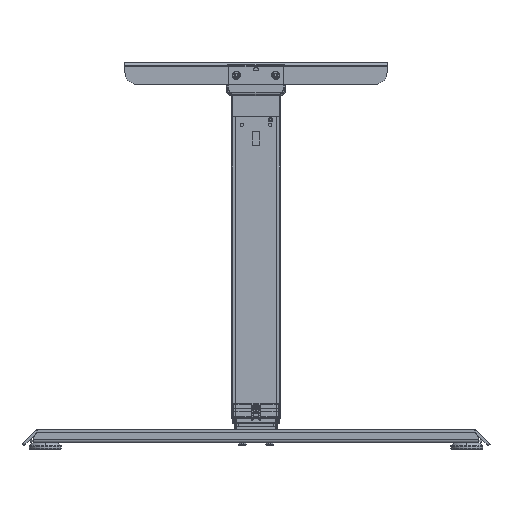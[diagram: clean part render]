
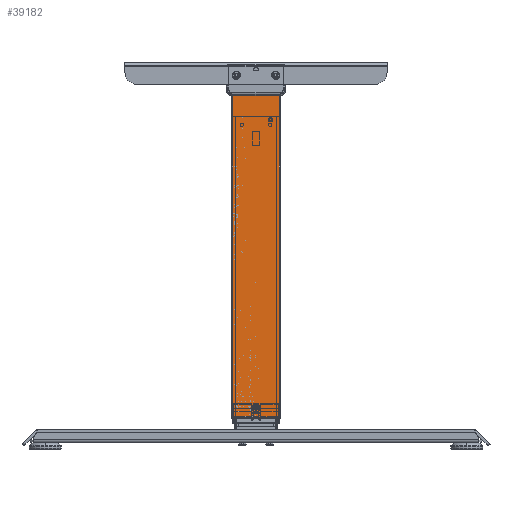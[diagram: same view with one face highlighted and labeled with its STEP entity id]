
A CAD part, left-side view. The second image highlights one B-rep face of the part: STEP entity #39182.
In plain terms, the highlighted planar face has unit normal (-1, 0, 0) as drawn and (1, 0, 0) by its records, which use the part's own axes.
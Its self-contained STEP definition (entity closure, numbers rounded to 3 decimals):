
#5786=ORIENTED_EDGE('',*,*,#16362,.F.);
#5787=ORIENTED_EDGE('',*,*,#16321,.T.);
#5788=ORIENTED_EDGE('',*,*,#16363,.F.);
#5789=ORIENTED_EDGE('',*,*,#16364,.F.);
#16321=EDGE_CURVE('',#21772,#21771,#25562,.T.);
#16362=EDGE_CURVE('',#21772,#21799,#25586,.T.);
#16363=EDGE_CURVE('',#21800,#21771,#25587,.T.);
#16364=EDGE_CURVE('',#21799,#21800,#25588,.T.);
#21771=VERTEX_POINT('',#61868);
#21772=VERTEX_POINT('',#61870);
#21799=VERTEX_POINT('',#62172);
#21800=VERTEX_POINT('',#62174);
#25562=LINE('',#61869,#29379);
#25586=LINE('',#62171,#29403);
#25587=LINE('',#62173,#29404);
#25588=LINE('',#62175,#29405);
#29379=VECTOR('',#49735,1000.);
#29403=VECTOR('',#49819,1000.);
#29404=VECTOR('',#49820,1000.);
#29405=VECTOR('',#49821,1000.);
#32978=EDGE_LOOP('',(#5786,#5787,#5788,#5789));
#35523=FACE_BOUND('',#32978,.T.);
#37730=PLANE('',#44475);
#39182=ADVANCED_FACE('',(#35523),#37730,.T.);
#44475=AXIS2_PLACEMENT_3D('',#62170,#49817,#49818);
#49735=DIRECTION('',(0.,1.,0.));
#49817=DIRECTION('',(1.,0.,0.));
#49818=DIRECTION('',(0.,0.,1.));
#49819=DIRECTION('',(0.,0.,1.));
#49820=DIRECTION('',(0.,0.,-1.));
#49821=DIRECTION('',(0.,1.,0.));
#61868=CARTESIAN_POINT('',(-10.003,37.008,49.998));
#61869=CARTESIAN_POINT('',(-10.003,0.001,49.998));
#61870=CARTESIAN_POINT('',(-10.003,-36.992,49.998));
#62170=CARTESIAN_POINT('',(-10.003,0.008,324.628));
#62171=CARTESIAN_POINT('',(-10.003,-36.992,47.998));
#62172=CARTESIAN_POINT('',(-10.003,-36.992,566.003));
#62173=CARTESIAN_POINT('',(-10.003,37.008,566.003));
#62174=CARTESIAN_POINT('',(-10.003,37.008,566.003));
#62175=CARTESIAN_POINT('',(-10.003,-36.992,566.003));
